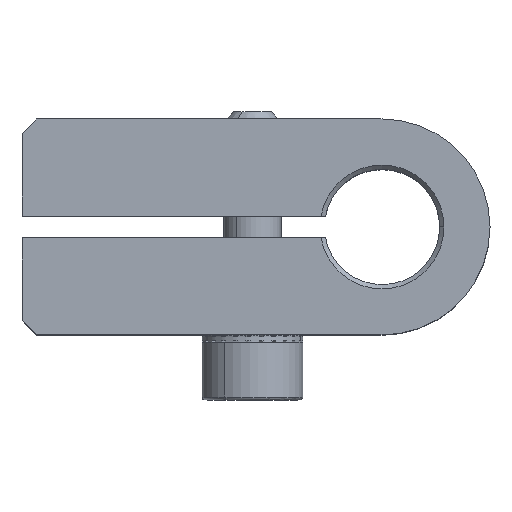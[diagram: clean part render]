
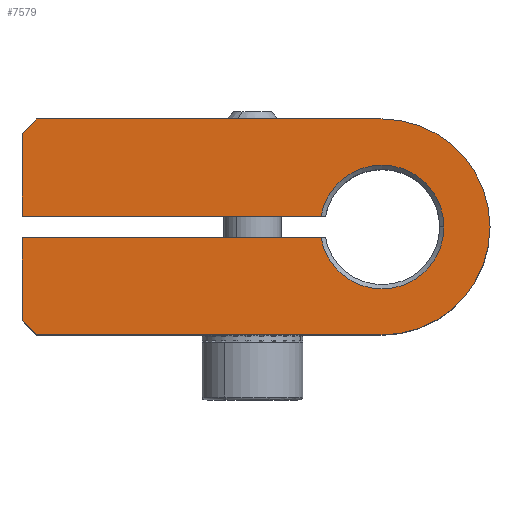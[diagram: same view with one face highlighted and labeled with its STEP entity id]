
A CAD part, top view. The second image highlights one B-rep face of the part: STEP entity #7579.
In plain terms, the highlighted planar face has unit normal (0, 0, 1).
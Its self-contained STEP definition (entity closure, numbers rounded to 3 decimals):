
#229 = EDGE_CURVE ( 'NONE', #1576, #1798, #6505, .T. ) ;
#241 = VECTOR ( 'NONE', #9818, 1000. ) ;
#387 = DIRECTION ( 'NONE',  ( 0.707, -0.707, 0. ) ) ;
#492 = DIRECTION ( 'NONE',  ( 1., 0., 0. ) ) ;
#508 = DIRECTION ( 'NONE',  ( 0., 0., -1. ) ) ;
#574 = LINE ( 'NONE', #5408, #10121 ) ;
#608 = VERTEX_POINT ( 'NONE', #1824 ) ;
#612 = LINE ( 'NONE', #6296, #10148 ) ;
#735 = CARTESIAN_POINT ( 'NONE',  ( 8.489, 31.707, 7.5 ) ) ;
#833 = CARTESIAN_POINT ( 'NONE',  ( 4.255, 39.957, 7.5 ) ) ;
#929 = CARTESIAN_POINT ( 'NONE',  ( -15.511, 46.707, 7.5 ) ) ;
#993 = EDGE_CURVE ( 'NONE', #3068, #6633, #9516, .T. ) ;
#1281 = CARTESIAN_POINT ( 'NONE',  ( 4.255, 38.457, 7.5 ) ) ;
#1325 = CARTESIAN_POINT ( 'NONE',  ( -16.011, 32.207, 7.5 ) ) ;
#1403 = CARTESIAN_POINT ( 'NONE',  ( -16.511, 39.957, 7.5 ) ) ;
#1414 = LINE ( 'NONE', #7886, #10984 ) ;
#1576 = VERTEX_POINT ( 'NONE', #9218 ) ;
#1612 = ORIENTED_EDGE ( 'NONE', *, *, #5629, .F. ) ;
#1656 = DIRECTION ( 'NONE',  ( -1., 0., 0. ) ) ;
#1713 = DIRECTION ( 'NONE',  ( 0., 0., -1. ) ) ;
#1798 = VERTEX_POINT ( 'NONE', #735 ) ;
#1817 = AXIS2_PLACEMENT_3D ( 'NONE', #5796, #6324, #6481 ) ;
#1824 = CARTESIAN_POINT ( 'NONE',  ( -16.511, 38.457, 7.5 ) ) ;
#1943 = ORIENTED_EDGE ( 'NONE', *, *, #993, .F. ) ;
#2266 = DIRECTION ( 'NONE',  ( -0.707, -0.707, 0. ) ) ;
#2335 = EDGE_CURVE ( 'NONE', #1798, #11656, #10317, .T. ) ;
#2375 = CARTESIAN_POINT ( 'NONE',  ( -0.164, 38.457, 7.5 ) ) ;
#2590 = DIRECTION ( 'NONE',  ( 0., 0., 1. ) ) ;
#2673 = VERTEX_POINT ( 'NONE', #833 ) ;
#2929 = VECTOR ( 'NONE', #6606, 1000. ) ;
#3017 = CARTESIAN_POINT ( 'NONE',  ( -15.511, 31.707, 7.5 ) ) ;
#3068 = VERTEX_POINT ( 'NONE', #1281 ) ;
#3311 = ORIENTED_EDGE ( 'NONE', *, *, #3356, .F. ) ;
#3356 = EDGE_CURVE ( 'NONE', #2673, #5134, #574, .T. ) ;
#3373 = AXIS2_PLACEMENT_3D ( 'NONE', #6071, #508, #6978 ) ;
#3400 = ORIENTED_EDGE ( 'NONE', *, *, #3449, .F. ) ;
#3412 = DIRECTION ( 'NONE',  ( -1., 0., 0. ) ) ;
#3449 = EDGE_CURVE ( 'NONE', #6956, #608, #612, .T. ) ;
#3900 = VECTOR ( 'NONE', #2266, 1000. ) ;
#3963 = CARTESIAN_POINT ( 'NONE',  ( -16.511, 32.707, 7.5 ) ) ;
#4113 = VECTOR ( 'NONE', #492, 1000. ) ;
#4242 = CIRCLE ( 'NONE', #8346, 4.3 ) ;
#4386 = ORIENTED_EDGE ( 'NONE', *, *, #10625, .F. ) ;
#4835 = ORIENTED_EDGE ( 'NONE', *, *, #229, .F. ) ;
#5134 = VERTEX_POINT ( 'NONE', #1403 ) ;
#5391 = LINE ( 'NONE', #1325, #7839 ) ;
#5408 = CARTESIAN_POINT ( 'NONE',  ( -0.164, 39.957, 7.5 ) ) ;
#5629 = EDGE_CURVE ( 'NONE', #10347, #1576, #9035, .T. ) ;
#5796 = CARTESIAN_POINT ( 'NONE',  ( 8.489, 39.207, 7.5 ) ) ;
#6071 = CARTESIAN_POINT ( 'NONE',  ( 16.184, 31.707, 7.5 ) ) ;
#6291 = ORIENTED_EDGE ( 'NONE', *, *, #2335, .F. ) ;
#6296 = CARTESIAN_POINT ( 'NONE',  ( -16.511, 39.207, 7.5 ) ) ;
#6324 = DIRECTION ( 'NONE',  ( 0., 0., 1. ) ) ;
#6337 = DIRECTION ( 'NONE',  ( 0., 1., 0. ) ) ;
#6433 = CARTESIAN_POINT ( 'NONE',  ( 8.489, 39.207, 7.5 ) ) ;
#6481 = DIRECTION ( 'NONE',  ( 1., 0., 0. ) ) ;
#6505 = CIRCLE ( 'NONE', #10034, 7.5 ) ;
#6606 = DIRECTION ( 'NONE',  ( -1., 0., 0. ) ) ;
#6633 = VERTEX_POINT ( 'NONE', #7257 ) ;
#6956 = VERTEX_POINT ( 'NONE', #3963 ) ;
#6978 = DIRECTION ( 'NONE',  ( -1., 0., 0. ) ) ;
#7146 = ORIENTED_EDGE ( 'NONE', *, *, #8490, .T. ) ;
#7159 = FACE_OUTER_BOUND ( 'NONE', #10287, .T. ) ;
#7257 = CARTESIAN_POINT ( 'NONE',  ( 12.789, 39.207, 7.5 ) ) ;
#7468 = ORIENTED_EDGE ( 'NONE', *, *, #10708, .F. ) ;
#7539 = CARTESIAN_POINT ( 'NONE',  ( -16.511, 45.707, 7.5 ) ) ;
#7579 = ADVANCED_FACE ( 'NONE', ( #7159 ), #10630, .F. ) ;
#7772 = EDGE_CURVE ( 'NONE', #6633, #2673, #4242, .T. ) ;
#7839 = VECTOR ( 'NONE', #387, 1000. ) ;
#7861 = ORIENTED_EDGE ( 'NONE', *, *, #9470, .T. ) ;
#7886 = CARTESIAN_POINT ( 'NONE',  ( -16.511, 39.207, 7.5 ) ) ;
#8143 = CARTESIAN_POINT ( 'NONE',  ( 8.489, 39.207, 7.5 ) ) ;
#8346 = AXIS2_PLACEMENT_3D ( 'NONE', #8143, #2590, #9069 ) ;
#8490 = EDGE_CURVE ( 'NONE', #10347, #11059, #11287, .T. ) ;
#8821 = CARTESIAN_POINT ( 'NONE',  ( -0.164, 46.707, 7.5 ) ) ;
#8885 = CARTESIAN_POINT ( 'NONE',  ( -0.164, 31.707, 7.5 ) ) ;
#9035 = LINE ( 'NONE', #8821, #4113 ) ;
#9069 = DIRECTION ( 'NONE',  ( 1., 0., 0. ) ) ;
#9218 = CARTESIAN_POINT ( 'NONE',  ( 8.489, 46.707, 7.5 ) ) ;
#9470 = EDGE_CURVE ( 'NONE', #6956, #11656, #5391, .T. ) ;
#9516 = CIRCLE ( 'NONE', #1817, 4.3 ) ;
#9818 = DIRECTION ( 'NONE',  ( 1., 0., 0. ) ) ;
#10034 = AXIS2_PLACEMENT_3D ( 'NONE', #6433, #1713, #3412 ) ;
#10109 = LINE ( 'NONE', #2375, #241 ) ;
#10121 = VECTOR ( 'NONE', #1656, 1000. ) ;
#10148 = VECTOR ( 'NONE', #6337, 1000. ) ;
#10239 = ORIENTED_EDGE ( 'NONE', *, *, #7772, .F. ) ;
#10287 = EDGE_LOOP ( 'NONE', ( #1943, #7468, #3400, #7861, #6291, #4835, #1612, #7146, #4386, #3311, #10239 ) ) ;
#10317 = LINE ( 'NONE', #8885, #2929 ) ;
#10347 = VERTEX_POINT ( 'NONE', #929 ) ;
#10625 = EDGE_CURVE ( 'NONE', #5134, #11059, #1414, .T. ) ;
#10630 = PLANE ( 'NONE',  #3373 ) ;
#10649 = CARTESIAN_POINT ( 'NONE',  ( -16.011, 46.207, 7.5 ) ) ;
#10708 = EDGE_CURVE ( 'NONE', #608, #3068, #10109, .T. ) ;
#10984 = VECTOR ( 'NONE', #11599, 1000. ) ;
#11059 = VERTEX_POINT ( 'NONE', #7539 ) ;
#11287 = LINE ( 'NONE', #10649, #3900 ) ;
#11599 = DIRECTION ( 'NONE',  ( 0., 1., 0. ) ) ;
#11656 = VERTEX_POINT ( 'NONE', #3017 ) ;
